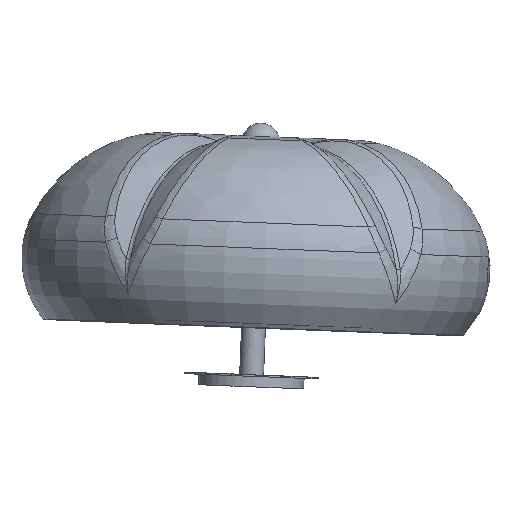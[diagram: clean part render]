
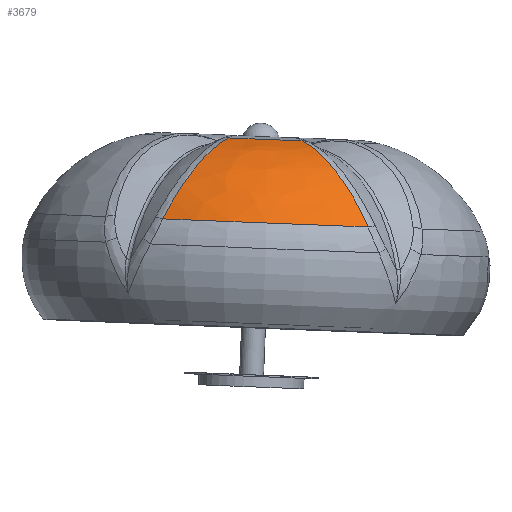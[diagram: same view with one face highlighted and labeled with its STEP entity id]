
A CAD part, top view. The second image highlights one B-rep face of the part: STEP entity #3679.
In plain terms, the highlighted free-form (B-spline) face has degree [2, 2] with [3, 3] control points.
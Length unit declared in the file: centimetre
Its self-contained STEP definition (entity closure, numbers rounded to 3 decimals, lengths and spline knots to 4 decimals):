
#52=(
BOUNDED_SURFACE()
B_SPLINE_SURFACE(2,2,((#12286,#12287,#12288),(#12289,#12290,#12291),(#12292,
#12293,#12294)),.UNSPECIFIED.,.F.,.F.,.F.)
B_SPLINE_SURFACE_WITH_KNOTS((3,3),(3,3),(0.4539,1.3531),
(-2.0454,-1.0962),.UNSPECIFIED.)
GEOMETRIC_REPRESENTATION_ITEM()
RATIONAL_B_SPLINE_SURFACE(((1.,0.889,1.),(0.901,
0.801,0.901),(1.,0.889,1.)))
REPRESENTATION_ITEM('')
SURFACE()
);
#325=B_SPLINE_CURVE_WITH_KNOTS('',3,(#11876,#11877,#11878,#11879,#11880,
#11881,#11882,#11883,#11884,#11885),.UNSPECIFIED.,.F.,.F.,(4,1,1,1,1,1,
1,4),(7.7192,9.511,11.3027,13.0945,
14.8862,16.678,18.4697,20.2615),
 .UNSPECIFIED.);
#334=B_SPLINE_CURVE_WITH_KNOTS('',3,(#12205,#12206,#12207,#12208,#12209,
#12210,#12211,#12212,#12213,#12214,#12215),.UNSPECIFIED.,.F.,.F.,(4,1,1,
1,1,1,1,1,4),(10.5113,11.4075,12.3036,14.0959,
15.8881,17.6804,19.4726,21.2649,23.0572),
 .UNSPECIFIED.);
#919=FACE_OUTER_BOUND('',#1174,.T.);
#1174=EDGE_LOOP('',(#3141,#3142,#3143,#3144));
#1334=CIRCLE('',#3906,12.4588);
#1354=CIRCLE('',#3930,23.5145);
#1634=VERTEX_POINT('',#10767);
#1635=VERTEX_POINT('',#10778);
#1658=VERTEX_POINT('',#11874);
#1659=VERTEX_POINT('',#11981);
#2105=EDGE_CURVE('',#1634,#1635,#1334,.T.);
#2158=EDGE_CURVE('',#1658,#1634,#325,.T.);
#2163=EDGE_CURVE('',#1658,#1659,#1354,.T.);
#2172=EDGE_CURVE('',#1635,#1659,#334,.T.);
#3141=ORIENTED_EDGE('',*,*,#2158,.F.);
#3142=ORIENTED_EDGE('',*,*,#2163,.T.);
#3143=ORIENTED_EDGE('',*,*,#2172,.F.);
#3144=ORIENTED_EDGE('',*,*,#2105,.F.);
#3679=ADVANCED_FACE('',(#919),#52,.F.);
#3906=AXIS2_PLACEMENT_3D('',#10779,#4335,#4336);
#3930=AXIS2_PLACEMENT_3D('',#11987,#4383,#4384);
#4335=DIRECTION('center_axis',(0.039,0.999,0.003));
#4336=DIRECTION('ref_axis',(-0.039,0.005,-0.999));
#4383=DIRECTION('center_axis',(0.039,0.999,0.003));
#4384=DIRECTION('ref_axis',(-0.039,0.005,-0.999));
#10767=CARTESIAN_POINT('',(-3.6525,25.6393,15.8569));
#10778=CARTESIAN_POINT('',(4.015,25.338,15.5544));
#10779=CARTESIAN_POINT('Origin',(-0.2838,25.5436,3.8626));
#11874=CARTESIAN_POINT('',(-10.5351,17.1637,25.1583));
#11876=CARTESIAN_POINT('Ctrl Pts',(-10.5351,17.1637,25.1583));
#11877=CARTESIAN_POINT('Ctrl Pts',(-10.2294,17.7722,24.9579));
#11878=CARTESIAN_POINT('Ctrl Pts',(-9.5942,18.949,24.4769));
#11879=CARTESIAN_POINT('Ctrl Pts',(-8.6001,20.5581,23.5345));
#11880=CARTESIAN_POINT('Ctrl Pts',(-7.5658,22.0182,22.3599));
#11881=CARTESIAN_POINT('Ctrl Pts',(-6.5338,23.2749,20.9864));
#11882=CARTESIAN_POINT('Ctrl Pts',(-5.5266,24.313,19.4391));
#11883=CARTESIAN_POINT('Ctrl Pts',(-4.5495,25.1269,17.7152));
#11884=CARTESIAN_POINT('Ctrl Pts',(-3.9421,25.4978,16.4846));
#11885=CARTESIAN_POINT('Ctrl Pts',(-3.6525,25.6393,15.8569));
#11981=CARTESIAN_POINT('',(10.9225,16.3206,24.3119));
#11987=CARTESIAN_POINT('Origin',(-0.6269,16.8391,3.8356));
#12205=CARTESIAN_POINT('Ctrl Pts',(4.015,25.338,15.5544));
#12206=CARTESIAN_POINT('Ctrl Pts',(4.1791,25.2546,15.8582));
#12207=CARTESIAN_POINT('Ctrl Pts',(4.5116,25.0653,16.4575));
#12208=CARTESIAN_POINT('Ctrl Pts',(5.1839,24.6034,17.6076));
#12209=CARTESIAN_POINT('Ctrl Pts',(6.0463,23.8671,18.9693));
#12210=CARTESIAN_POINT('Ctrl Pts',(7.1007,22.7353,20.4545));
#12211=CARTESIAN_POINT('Ctrl Pts',(8.1324,21.3996,21.7407));
#12212=CARTESIAN_POINT('Ctrl Pts',(9.1308,19.8731,22.828));
#12213=CARTESIAN_POINT('Ctrl Pts',(10.0793,18.1665,23.7063));
#12214=CARTESIAN_POINT('Ctrl Pts',(10.6527,16.947,24.1355));
#12215=CARTESIAN_POINT('Ctrl Pts',(10.9225,16.3206,24.3119));
#12286=CARTESIAN_POINT('Ctrl Pts',(-10.5351,17.1637,25.1583));
#12287=CARTESIAN_POINT('Ctrl Pts',(0.4103,16.7165,30.2512));
#12288=CARTESIAN_POINT('Ctrl Pts',(10.9225,16.3206,24.3119));
#12289=CARTESIAN_POINT('Ctrl Pts',(-8.8148,24.1341,22.0733));
#12290=CARTESIAN_POINT('Ctrl Pts',(0.5358,23.7521,26.4242));
#12291=CARTESIAN_POINT('Ctrl Pts',(9.5164,23.4138,21.3502));
#12292=CARTESIAN_POINT('Ctrl Pts',(-5.5334,25.7156,15.16));
#12293=CARTESIAN_POINT('Ctrl Pts',(0.2658,25.4786,17.8584));
#12294=CARTESIAN_POINT('Ctrl Pts',(5.8355,25.2688,14.7115));
